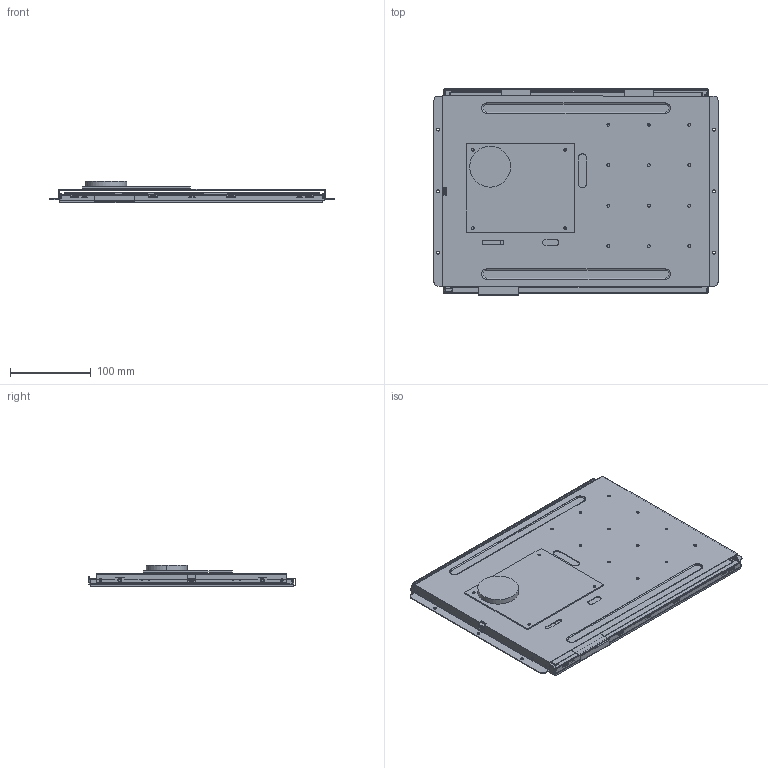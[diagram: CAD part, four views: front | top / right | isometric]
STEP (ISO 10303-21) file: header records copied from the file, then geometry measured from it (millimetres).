
FILE_DESCRIPTION((''),'2;1');
FILE_NAME('3D-DMG10768C150-03WTC','2020-08-03T',('Administrator'),(''),'PRO/ENGINEER BY PARAMETRIC TECHNOLOGY CORPORATION, 2008380','PRO/ENGINEER BY PARAMETRIC TECHNOLOGY CORPORATION, 2008380','');
FILE_SCHEMA(('CONFIG_CONTROL_DESIGN'));
Products named in the file (1): 3D-DMG10768C150-03WTC
Bounding box: 351.01 x 255.7 x 26.2 mm (x, y, z)
Volume: 517695.1 mm3; surface area: 759799.6 mm2
Topology: 3 solids, 5 shells, 1771 faces, 16266 edges, 22460 vertices
Faces by surface type: plane 1296, cylinder 392, torus 47, sphere 20, cone 12, bspline 4
Entity records: 116877 total; most frequent: DIRECTION 23794, CARTESIAN_POINT 21975, VECTOR 11990, LINE 11990, TRIMMED_CURVE 11310, ORIENTED_EDGE 9884, AXIS2_PLACEMENT_3D 5902, EDGE_CURVE 4942
